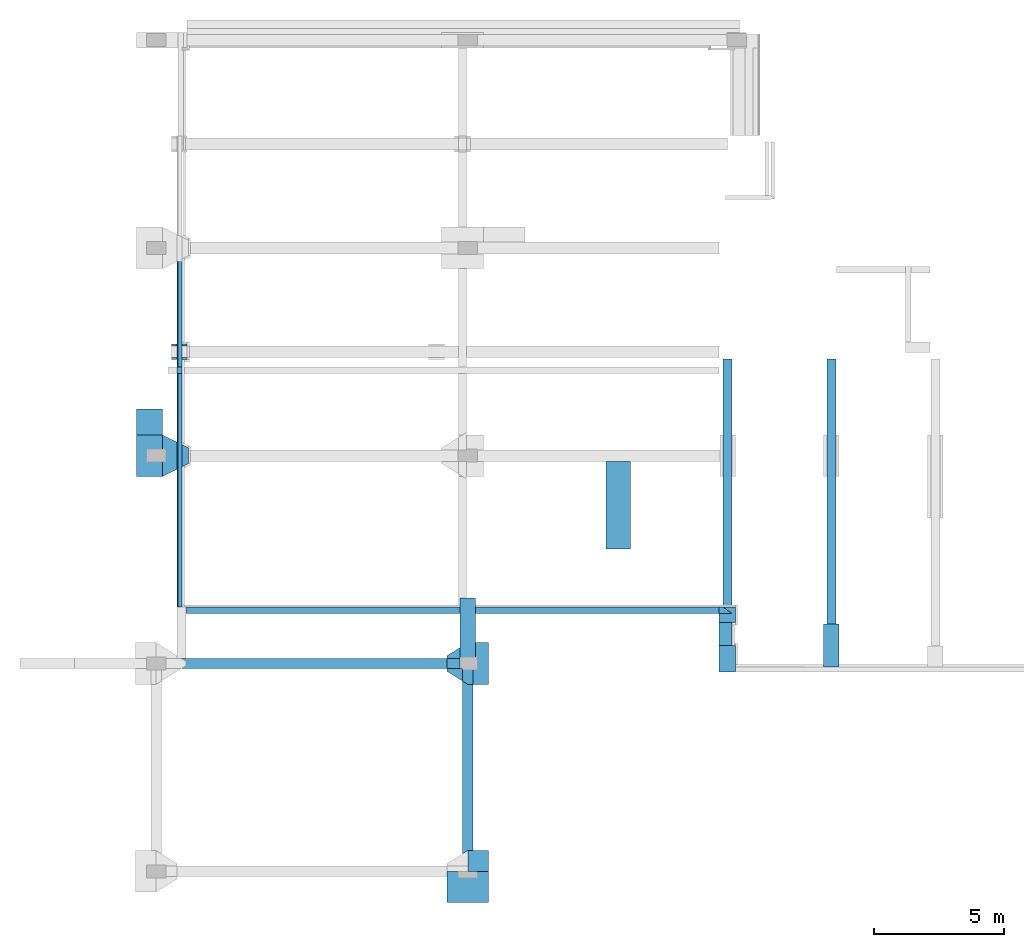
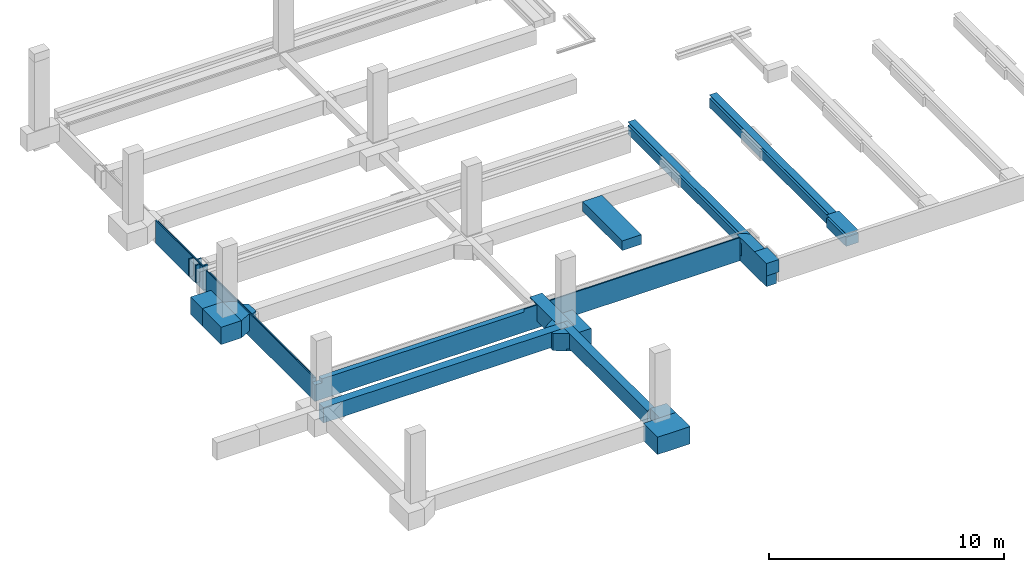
# One storey, part 2 of 17: 20 beams.
"""IFC2X3 building model written with IfcOpenShell, lengths in millimetres."""

from ifc_helpers import new_model, entity, si_unit, converted_unit, derived_unit, money_unit, direction, frame, origin_with_axes, place, context, subcontext, project, spatial, faceted_brep, material, type_object, element, save


model = new_model("IFC2X3")

# Units and contexts
model_context = context("Model", 3, precision=0.01, world=origin_with_axes(), true_north=direction((0.0, 1.0)))
body_context = subcontext(model_context, "Body", "Model", "MODEL_VIEW")
ifc_project = project(units=[si_unit("LENGTHUNIT", "METRE", prefix="MILLI"), si_unit("AREAUNIT", "SQUARE_METRE"), si_unit("VOLUMEUNIT", "CUBIC_METRE"), converted_unit("PLANEANGLEUNIT", "DEGREE", entity("IfcPlaneAngleMeasure", 0.0174532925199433), si_unit("PLANEANGLEUNIT", "RADIAN"), dimensions=[0, 0, 0, 0, 0, 0, 0]), money_unit("EUR"), converted_unit("TIMEUNIT", "Year", entity("IfcTimeMeasure", 31557600.0), si_unit("TIMEUNIT", "SECOND"), dimensions=[0, 0, 1, 0, 0, 0, 0]), si_unit("MASSUNIT", "GRAM", prefix="KILO"), si_unit("THERMODYNAMICTEMPERATUREUNIT", "DEGREE_CELSIUS"), si_unit("LUMINOUSINTENSITYUNIT", "LUMEN"), si_unit("ENERGYUNIT", "JOULE", prefix="MEGA"), derived_unit("THERMALCONDUCTANCEUNIT", [(si_unit("POWERUNIT", "WATT"), 1), (si_unit("LENGTHUNIT", "METRE"), -1), (si_unit("THERMODYNAMICTEMPERATUREUNIT", "KELVIN"), -1)]), derived_unit("SPECIFICHEATCAPACITYUNIT", [(si_unit("ENERGYUNIT", "JOULE"), 1), (si_unit("MASSUNIT", "GRAM", prefix="KILO"), -1), (si_unit("THERMODYNAMICTEMPERATUREUNIT", "KELVIN"), -1)]), derived_unit("MASSDENSITYUNIT", [(si_unit("MASSUNIT", "GRAM", prefix="KILO"), 1), (si_unit("VOLUMEUNIT", "CUBIC_METRE"), -1)])], contexts=[model_context])

# Site, building, storey
site_placement = place(None, origin_with_axes())
site = spatial("IfcSite", under=ifc_project, at=site_placement, Name="<site naam>", CompositionType="ELEMENT")
building_placement = place(site_placement, origin_with_axes())
building = spatial("IfcBuilding", under=site, at=building_placement, Name="<Naam gebouw>", CompositionType="ELEMENT")
storey_placement = place(building_placement, frame((0.0, 0.0, -1100.0), z_axis=(0.0, 0.0, 1.0), x_axis=(1.0, 0.0, 0.0)))
storey = spatial("IfcBuildingStorey", under=building, at=storey_placement, Name="-1 Fundering", CompositionType="ELEMENT", Elevation=-1100.0)

# Beams
ifc_material = material(Name="beton_gewapend C")
beam_type_1 = type_object("IfcBeamType", Name="beton_gewapend C 400 x 800", PredefinedType="BEAM")
beam_1_placement = place(storey_placement, frame((2000.000000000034, -7999.999999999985, 1100.0), z_axis=(0.0, 0.0, 1.0), x_axis=(1.0, 0.0, 0.0)))
element("IfcBeam", 1, at=beam_1_placement, inside=storey, type_object=beam_type_1, material=ifc_material, Name="28_Balk_beton_gewapend", ObjectType="BEAM", context=body_context, shape_type="Brep", body=[
    faceted_brep([(199.9999999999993, 8200.000000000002, 0.0), (199.9999999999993, 8200.000000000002, -799.9999999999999), (0.0, 8200.000000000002, -799.9999999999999), (0.0, 8200.000000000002, 0.0), (200.0000000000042, 800.0000000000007, -799.9999999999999), (200.0000000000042, 800.0000000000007, 0.0), (-199.999999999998, 675.0000000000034, -799.9999999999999), (-200.0000000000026, 7800.0, -799.9999999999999), (0.0, 7800.000000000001, -799.9999999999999), (0.0, 800.0000000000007, -799.9999999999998), (0.0, 7800.000000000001, 0.0), (-200.0000000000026, 7800.0, 0.0), (-199.999999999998, 675.0000000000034, 0.0), (0.0, 800.0000000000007, 0.0)], [[[0, 1, 2, 3]], [[4, 1, 0, 5]], [[6, 7, 8, 2, 1, 4, 9]], [[2, 8, 10, 3]], [[0, 3, 10, 11, 12, 13, 5]], [[5, 13, 9, 4]], [[6, 12, 11, 7]], [[8, 7, 11, 10]], [[13, 12, 6, 9]]]),
])
beam_2_placement = place(storey_placement, frame((-9999.999999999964, 0.0, 1100.0), z_axis=(0.0, 0.0, 1.0), x_axis=(0.0, -1.0, 0.0)))
element("IfcBeam", 2, at=beam_2_placement, inside=storey, type_object=beam_type_1, material=ifc_material, Name="28_Balk_beton_gewapend", ObjectType="BEAM", context=body_context, shape_type="Brep", body=[
    faceted_brep([(-199.9999999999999, 0.0, -799.9999999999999), (-200.0000000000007, 12000.0, -799.9999999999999), (199.9999999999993, 12000.0, -799.9999999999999), (200.0000000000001, 0.0, -799.9999999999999), (-200.0, 0.0, 0.0), (-200.0000000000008, 12000.0, 0.0), (199.9999999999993, 12000.0, 0.0), (200.0, 0.0, 0.0)], [[[0, 1, 2, 3]], [[4, 5, 1, 0]], [[2, 1, 5, 6]], [[3, 2, 6, 7]], [[4, 0, 3, 7]], [[7, 6, 5, 4]]]),
])
beam_type_2 = type_object("IfcBeamType", Name="beton_gewapend C 600 x 650", PredefinedType="BEAM")
beam_3_placement = place(storey_placement, frame((16000.00000000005, 1525.63801612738, 1070.0), z_axis=(0.0, 0.0, 1.0), x_axis=(-1.0, 0.0, 0.0)))
element("IfcBeam", 3, at=beam_3_placement, inside=storey, type_object=beam_type_2, material=ifc_material, Name="28_Balk_beton_gewapend", ObjectType="BEAM", context=body_context, shape_type="Brep", body=[
    faceted_brep([(300.0000000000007, 0.0, -650.0000000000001), (300.0000000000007, 0.0, -170.0), (-300.0000000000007, 0.0, -170.0), (-300.0000000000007, 0.0, -650.0000000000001), (300.0000000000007, 1650.638016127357, -650.0000000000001), (300.0000000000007, 1650.638016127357, -170.0), (-300.0000000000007, 1650.638016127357, -170.0), (-300.0000000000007, 1650.638016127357, -650.0000000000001)], [[[0, 1, 2, 3]], [[4, 5, 1, 0]], [[5, 6, 2, 1]], [[3, 2, 6, 7]], [[0, 3, 7, 4]], [[7, 6, 5, 4]]]),
    faceted_brep([(-300.0000000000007, 1650.638016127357, 0.0), (-300.0000000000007, 1650.638016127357, -20.00000000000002), (-300.0000000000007, 0.0, -20.00000000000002), (-300.0000000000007, 0.0, 0.0), (300.0000000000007, 1650.638016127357, 0.0), (300.0000000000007, 1650.638016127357, -20.00000000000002), (300.0000000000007, 0.0, -20.00000000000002), (300.0000000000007, 0.0, 0.0)], [[[0, 1, 2, 3]], [[4, 5, 1, 0]], [[5, 6, 2, 1]], [[3, 2, 6, 7]], [[3, 7, 4, 0]], [[7, 6, 5, 4]]]),
])
beam_type_3 = type_object("IfcBeamType", Name="beton_gewapend C 350 x 650", PredefinedType="BEAM")
beam_4_placement = place(storey_placement, frame((16000.00000000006, 11725.00000000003, 1070.0), z_axis=(0.0, 0.0, 1.0), x_axis=(-1.0, 0.0, 0.0)))
element("IfcBeam", 4, at=beam_4_placement, inside=storey, type_object=beam_type_3, material=ifc_material, Name="28_Balk_beton_gewapend", ObjectType="BEAM", context=body_context, shape_type="Brep", body=[
    faceted_brep([(175.0000000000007, 0.0, -650.0000000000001), (175.0000000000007, 0.0, -170.0), (-175.0000000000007, 0.0, -170.0), (-175.0000000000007, 0.0, -650.0000000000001), (175.0000000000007, 10199.36198387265, -650.0000000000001), (175.0000000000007, 10199.36198387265, -170.0), (-175.0000000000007, 10199.36198387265, -170.0), (-175.0000000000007, 10199.36198387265, -650.0000000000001)], [[[0, 1, 2, 3]], [[4, 5, 1, 0]], [[5, 6, 2, 1]], [[3, 2, 6, 7]], [[0, 3, 7, 4]], [[7, 6, 5, 4]]]),
    faceted_brep([(-175.0000000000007, 10199.36198387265, 0.0), (-175.0000000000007, 10199.36198387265, -20.00000000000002), (-175.0000000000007, 0.0, -20.00000000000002), (-175.0000000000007, 0.0, 0.0), (175.0000000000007, 10199.36198387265, 0.0), (175.0000000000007, 10199.36198387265, -20.00000000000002), (175.0000000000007, 0.0, -20.00000000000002), (175.0000000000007, 0.0, 0.0)], [[[0, 1, 2, 3]], [[4, 5, 1, 0]], [[5, 6, 2, 1]], [[3, 2, 6, 7]], [[3, 7, 4, 0]], [[7, 6, 5, 4]]]),
])
beam_5_placement = place(storey_placement, frame((12000.00000000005, 11725.00000000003, 1070.0), z_axis=(0.0, 0.0, 1.0), x_axis=(-1.0, 0.0, 0.0)))
element("IfcBeam", 5, at=beam_5_placement, inside=storey, type_object=beam_type_3, material=ifc_material, Name="28_Balk_beton_gewapend", ObjectType="BEAM", context=body_context, shape_type="Brep", body=[
    faceted_brep([(175.0000000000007, 0.0, -650.0000000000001), (175.0000000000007, 0.0, -170.0), (-175.0000000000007, 0.0, -170.0), (-175.0000000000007, 0.0, -650.0000000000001), (175.0000000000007, 9549.993437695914, -250.0000000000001), (175.0000000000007, 9549.993437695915, -170.0), (175.0000000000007, 9549.993437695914, -650.0000000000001), (-175.0000000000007, 9799.993437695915, -170.0), (-175.0000000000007, 9799.993437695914, -250.0000000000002), (-175.0000000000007, 9549.993437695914, -250.0000000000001), (-175.0000000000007, 9549.993437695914, -650.0000000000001)], [[[0, 1, 2, 3]], [[4, 5, 1, 0, 6]], [[5, 7, 2, 1]], [[3, 2, 7, 8, 9, 10]], [[0, 3, 10, 6]], [[8, 7, 5, 4]], [[4, 6, 10, 9]], [[8, 4, 9]]]),
    faceted_brep([(-175.0000000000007, 9799.993437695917, 0.0), (-175.0000000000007, 9799.993437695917, -20.00000000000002), (-175.0000000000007, 0.0, -20.00000000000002), (-175.0000000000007, 0.0, 0.0), (174.9999999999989, 9549.993437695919, 0.0), (174.9999999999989, 9549.993437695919, -20.00000000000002), (175.0000000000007, 0.0, -20.00000000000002), (175.0000000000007, 0.0, 0.0)], [[[0, 1, 2, 3]], [[4, 5, 1, 0]], [[5, 6, 2, 1]], [[3, 2, 6, 7]], [[0, 3, 7, 4]], [[7, 6, 5, 4]]]),
])
beam_type_4 = type_object("IfcBeamType", Name="beton_gewapend C 200 x 1200", PredefinedType="BEAM")
beam_6_placement = place(storey_placement, frame((-9199.999999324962, 16000.00000000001, 1050.0), z_axis=(0.0, 0.0, 1.0), x_axis=(-1.0, 0.0, 0.0)))
element("IfcBeam", 6, at=beam_6_placement, inside=storey, type_object=beam_type_4, material=ifc_material, Name="28_Balk_beton_gewapend", ObjectType="BEAM", context=body_context, shape_type="Brep", body=[
    faceted_brep([(0.0, 4827.478106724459, 0.0), (-44.99999932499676, 4827.478106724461, 0.0), (-44.99999932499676, 4827.478106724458, -150.0), (-199.9999999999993, 4827.478106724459, -150.0), (-199.9999999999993, 4827.478106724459, -1180.0), (0.0, 4827.478106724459, -1180.0), (0.0, 13825.0, 0.0), (-44.99999932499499, 13825.0, 0.0), (-44.99999932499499, 13825.0, -150.0), (-199.9999999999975, 13825.0, -150.0), (-200.0000000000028, 420.4587537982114, -900.0), (-200.0000000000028, 420.4587537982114, -150.0), (-199.9999999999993, 4577.478106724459, -150.0), (-199.9999999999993, 4577.478106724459, -1180.0), (-199.9999999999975, 13825.0, -1200.0), (-200.0000000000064, 520.4587537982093, -1200.0), (-200.0000000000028, 520.4587537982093, -900.0), (0.0, 4577.478106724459, -1180.0), (0.0, 4577.478106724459, 0.0), (0.0, 520.4587537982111, 0.0), (0.0, 520.4587537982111, -900.0), (0.0, 520.4587537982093, -1200.0), (0.0, 13825.0, -1200.0), (-44.99999932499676, 497.9587541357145, 0.0), (-44.99999932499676, 497.9587541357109, -150.0), (-44.99999932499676, 4577.478106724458, -150.0), (-44.99999932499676, 4577.478106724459, 0.0)], [[[0, 1, 2, 3, 4, 5]], [[6, 7, 1, 0]], [[8, 2, 1, 7]], [[8, 9, 3, 2]], [[10, 11, 12, 13, 4, 3, 9, 14, 15, 16]], [[5, 4, 13, 17]], [[5, 17, 18, 19, 20, 21, 22, 6, 0]], [[9, 8, 7, 6, 22, 14]], [[19, 23, 24, 11, 10, 20]], [[25, 12, 11, 24]], [[12, 25, 26, 18, 17, 13]], [[21, 15, 14, 22]], [[16, 15, 21, 20]], [[20, 10, 16]], [[18, 26, 23, 19]], [[25, 24, 23, 26]]]),
])
beam_type_5 = type_object("IfcBeamType", Name="beton_gewapend C 510 x 1200", PredefinedType="BEAM")
beam_7_placement = place(storey_placement, frame((11665.44613421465, 2175.000000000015, 1070.0), z_axis=(0.0, 0.0, 1.0), x_axis=(-0.9999999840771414, 0.0001784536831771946, 0.0)))
element("IfcBeam", 7, at=beam_7_placement, inside=storey, type_object=beam_type_5, material=ifc_material, Name="28_Balk_beton_gewapend", ObjectType="BEAM", context=body_context, shape_type="Brep", body=[
    faceted_brep([(-510.0000000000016, 1482.685538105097, 0.0), (-510.0000000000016, 1482.685538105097, -20.00000000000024), (-509.999999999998, -0.09757368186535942, -20.00000000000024), (-510.0000000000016, -0.09757368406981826, 0.0), (-219.8184682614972, 1482.737322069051, -170.0000000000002), (-219.8184682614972, 1482.737322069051, -20.00000000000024), (-0.2694650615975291, 1482.776501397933, 0.0), (-0.2694650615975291, 1482.776501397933, -650.0000000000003), (-510.0000000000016, 1482.685538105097, -650.0000000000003), (-510.0000000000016, 1482.685538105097, -170.0000000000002), (-159.5538620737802, -0.03503527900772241, -20.00000000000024), (-509.5984699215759, 249.9025019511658, -20.00000000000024), (-509.5538565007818, -0.0974940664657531, -20.00000000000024), (-219.5984735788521, 249.9542535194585, -20.00000000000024), (0.0, 249.9934416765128, -20.00000000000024), (0.0, -0.006562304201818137, -20.00000000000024), (-509.5538564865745, -0.0975736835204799, 0.0), (-159.5538509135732, -0.09757368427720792, 0.0), (0.0, -0.09757368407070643, 0.0), (0.0, 2500.000037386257, 0.0), (-0.4509923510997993, 2500.000037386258, 0.0), (-509.5984699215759, 249.9025019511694, 0.0), (-159.553862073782, -0.03503527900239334, 0.0), (-219.5984735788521, 249.9542535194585, -170.0000000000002), (-0.4509923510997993, 2500.000037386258, -650.0000000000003), (-509.9999999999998, 2499.968808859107, -650.0000000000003), (-335.0048634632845, 2500.000037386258, -650.0000000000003), (-509.999999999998, -0.09757368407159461, -250.0000000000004), (-509.999999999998, -0.09757368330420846, -170.0000000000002), (-509.9999999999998, 2499.968808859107, 0.0), (-509.9999999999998, 2500.000037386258, 0.0), (-509.9999999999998, 2500.000037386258, -1200.0), (-509.999999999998, -0.09757368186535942, -1200.0), (-509.999999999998, -0.09757368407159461, -900.0000000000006), (-509.9999999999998, 599.9089981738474, -900.0000000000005), (-509.9999999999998, 599.9089981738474, -250.0000000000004), (-509.5538565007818, -0.0974940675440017, -170.0000000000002), (-509.5984699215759, 249.9025019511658, -170.0000000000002), (-509.5984699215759, 249.9025019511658, -250.0000000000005), (-0.04461224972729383, 249.9934337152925, -250.0000000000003), (-0.04461224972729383, 249.9934337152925, -900.0000000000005), (-509.5984699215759, 249.9025019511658, -900.0000000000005), (-509.5984699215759, 249.9025019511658, -1200.0), (0.0, 249.9934416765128, -1200.0), (0.0, 2500.000037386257, -1200.0), (0.0, -0.09757368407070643, -20.00000000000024), (-159.5538509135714, -0.09757368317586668, -20.00000000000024), (-335.0048620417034, 2500.000037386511, 0.0), (-509.5538565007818, -0.09749406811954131, -250.0000000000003), (-159.5538620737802, -0.03503527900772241, -1200.0), (-159.5538620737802, -0.03503527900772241, -900.0000000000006), (-0.1070722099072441, 599.9999904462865, -900.0000000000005), (-0.1070722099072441, 599.9999904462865, -250.0000000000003)], [[[0, 1, 2, 3]], [[4, 5, 1, 0, 6, 7, 8, 9]], [[10, 11, 12, 2, 1, 5, 13, 14, 15]], [[3, 2, 12, 16]], [[17, 18, 19, 20, 6, 0, 3, 16, 21, 22]], [[4, 23, 13, 5]], [[7, 6, 20, 24]], [[25, 8, 7, 24, 26]], [[27, 28, 9, 8, 25, 29, 30, 31, 32, 33, 34, 35]], [[4, 9, 28, 36, 37, 23]], [[21, 11, 10, 22]], [[16, 12, 11, 21]], [[13, 23, 37, 38, 39, 40, 41, 42, 43, 14]], [[14, 43, 44, 19, 18, 45, 15]], [[46, 10, 15, 45]], [[17, 46, 45, 18]], [[24, 20, 19, 44, 31, 30, 47, 26]], [[46, 17, 22, 10]], [[29, 25, 26, 47]], [[48, 36, 28, 27]], [[29, 47, 30]], [[32, 31, 44, 43, 42, 49]], [[33, 32, 49, 50]], [[50, 41, 40, 51, 34, 33]], [[35, 34, 51, 52]], [[27, 35, 52, 39, 38, 48]], [[38, 37, 36, 48]], [[39, 52, 51, 40]], [[42, 41, 50, 49]]]),
])
beam_type_6 = type_object("IfcBeamType", Name="beton_gewapend C 635 x 650", PredefinedType="BEAM")
beam_8_placement = place(storey_placement, frame((11665.45099234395, 692.2234741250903, 1070.0), z_axis=(0.0, 0.0, 1.0), x_axis=(-1.0, 0.0, 0.0)))
element("IfcBeam", 8, at=beam_8_placement, inside=storey, type_object=beam_type_6, material=ifc_material, Name="28_Balk_beton_gewapend", ObjectType="BEAM", context=body_context, shape_type="Brep", body=[
    faceted_brep([(-634.9999999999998, 0.0, -170.0), (-634.9999999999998, 917.2169118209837, -170.0), (-634.9999999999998, 917.2169118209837, -20.00000000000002), (-634.9999999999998, 0.0, -20.00000000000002), (-634.9999999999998, 0.0, 0.0), (-634.9999999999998, 1017.283254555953, 0.0), (-634.9999999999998, 1017.283254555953, -650.0000000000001), (-634.9999999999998, 0.0, -650.0000000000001), (-219.5490066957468, 917.2169118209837, -170.0), (-219.5490066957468, 0.0, -170.0), (-219.5490066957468, 917.2169118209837, -20.00000000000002), (-219.5490066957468, 0.0, -20.00000000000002), (0.0, 0.0, -650.0000000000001), (0.0, 0.0, 0.0), (0.0, 1017.283254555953, 0.0), (0.0, 1017.283254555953, -650.0000000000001)], [[[0, 1, 2, 3, 4, 5, 6, 7]], [[8, 1, 0, 9]], [[10, 2, 1, 8]], [[10, 11, 3, 2]], [[11, 9, 0, 7, 12, 13, 4, 3]], [[4, 13, 14, 5]], [[14, 15, 6, 5]], [[12, 7, 6, 15]], [[8, 9, 11, 10]], [[13, 12, 15, 14]]]),
])
beam_9_placement = place(storey_placement, frame((11665.44613421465, 2175.000000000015, 820.0), z_axis=(0.0, 0.0, 1.0), x_axis=(-1.0, 0.0, 0.0)))
element("IfcBeam", 9, at=beam_9_placement, inside=storey, type_object=beam_type_6, material=ifc_material, Name="28_Balk_beton_gewapend", ObjectType="BEAM", context=body_context, shape_type="Brep", body=[
    faceted_brep([(-159.5538657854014, -0.006562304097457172, 0.0), (-509.5538657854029, 249.9934376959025, 0.0), (0.0, 249.9934376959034, 0.0), (0.0, 600.0000000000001, 0.0), (-634.9999999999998, 600.0000000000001, 0.0), (-634.9999999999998, -0.006562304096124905, 0.0), (-509.5538657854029, 249.9934376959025, -650.0000000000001), (-159.5538657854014, -0.006562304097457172, -650.0000000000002), (0.0, 249.9934376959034, -650.0000000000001), (0.0, 600.0000000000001, -650.0000000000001), (-634.9999999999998, 600.0000000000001, -650.0000000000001), (-634.9999999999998, -0.006562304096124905, -650.0000000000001)], [[[0, 1, 2, 3, 4, 5]], [[6, 1, 0, 7]], [[8, 2, 1, 6]], [[3, 2, 8, 9]], [[4, 3, 9, 10]], [[10, 11, 5, 4]], [[11, 7, 0, 5]], [[8, 6, 7, 11, 10, 9]]]),
])
beam_type_7 = type_object("IfcBeamType", Name="beton_gewapend C 950 x 650", PredefinedType="BEAM")
beam_10_placement = place(storey_placement, frame((7795.917508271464, 8000.000000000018, 1050.0), z_axis=(0.0, 0.0, 1.0), x_axis=(-1.0, 0.0, 0.0)))
element("IfcBeam", 10, at=beam_10_placement, inside=storey, type_object=beam_type_7, material=ifc_material, Name="28_Balk_beton_gewapend", ObjectType="BEAM", context=body_context, shape_type="Brep", body=[
    faceted_brep([(474.9999999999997, 224.9999999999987, -650.0000000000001), (474.9999999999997, 224.9999999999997, -150.0), (-474.9999999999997, 224.9999999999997, -149.9999999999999), (-474.9999999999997, 224.9999999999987, -650.0000000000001), (474.9999999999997, 3600.000000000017, -650.0000000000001), (474.9999999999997, 3600.000000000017, -149.9999999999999), (-474.9999999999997, 3600.000000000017, -150.0), (-474.9999999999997, 3600.000000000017, -650.0000000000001)], [[[0, 1, 2, 3]], [[4, 5, 1, 0]], [[5, 6, 2, 1]], [[3, 2, 6, 7]], [[7, 4, 0, 3]], [[7, 6, 5, 4]]]),
])
beam_type_8 = type_object("IfcBeamType", Name="beton_gewapend C 250 x 1200", PredefinedType="BEAM")
beam_11_placement = place(storey_placement, frame((-9199.999999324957, 2175.00656230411, 1050.0), z_axis=(0.0, 0.0, 1.0), x_axis=(0.0, -1.0, 0.0)))
element("IfcBeam", 11, at=beam_11_placement, inside=storey, type_object=beam_type_8, material=ifc_material, Name="28_Balk_beton_gewapend", ObjectType="BEAM", context=body_context, shape_type="Brep", body=[
    faceted_brep([(0.0, 11499.99999882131, -850.0), (0.0, 11499.99999885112, -150.0), (0.0, 21024.99999932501, -150.0), (0.0, 21024.99999932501, -1200.0), (0.0, -8.050271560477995e-08, -1200.0), (0.00656230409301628, 0.0, -350.0000000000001), (0.0, 349.9999999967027, -350.0), (0.0, 349.9999999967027, -150.0), (0.0, 11145.91750705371, -150.0), (0.0, 11145.91750705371, -500.0000000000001), (0.0, 10899.99999880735, -500.0000000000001), (0.0, 10899.99999882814, -850.0), (244.9999999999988, 11499.99999891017, 0.0), (244.9999999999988, 11499.99999884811, -150.0), (249.9999999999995, 11499.99999884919, -850.0000000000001), (249.9999999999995, 11499.99999891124, 0.0), (244.9999999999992, 21084.99999836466, -150.0), (250.0, 21084.99999836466, -150.0), (249.9999999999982, 21374.99999932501, -149.9999999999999), (249.9999999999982, 21374.99999932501, -1200.0), (250.0000000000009, -8.050271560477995e-08, -1200.0), (250.0000000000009, -7.755751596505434e-08, -350.0000000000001), (250.0000000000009, 349.9999999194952, -350.0), (250.0001585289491, 349.9999999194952, -150.0), (244.9999999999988, 10275.04446651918, -150.0), (244.9999999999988, 11145.91750705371, -150.0), (250.0001585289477, 10275.04446651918, -150.0), (244.9999999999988, 11145.91750705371, 0.0), (249.9999999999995, 11145.91750705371, 0.0), (249.9999999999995, 11145.91750705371, -500.0000000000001), (249.9999999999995, 10899.99999882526, -500.0000000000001), (249.9999999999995, 10899.99999886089, -850.0000000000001), (244.9999999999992, 21084.99999836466, 0.0), (249.9999999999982, 21084.99999836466, 0.0), (250.0001585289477, 10275.04446651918, 0.0), (244.9999999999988, 10275.04446651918, 0.0)], [[[0, 1, 2, 3, 4, 5, 6, 7, 8, 9, 10, 11]], [[12, 13, 1, 0, 14, 15]], [[16, 17, 18, 2, 1, 13]], [[3, 2, 18, 19]], [[20, 4, 3, 19]], [[4, 20, 21, 5]], [[21, 22, 6, 5]], [[22, 23, 7, 6]], [[24, 25, 8, 7, 23, 26]], [[8, 25, 27, 28, 29, 9]], [[9, 29, 30, 10]], [[10, 30, 31, 11]], [[11, 31, 14, 0]], [[13, 12, 32, 16]], [[18, 17, 33, 15, 14, 31, 30, 29, 28, 34, 26, 23, 22, 21, 20, 19]], [[33, 32, 12, 15]], [[16, 32, 33, 17]], [[24, 35, 27, 25]], [[26, 34, 35, 24]], [[27, 35, 34, 28]]]),
])
beam_type_9 = type_object("IfcBeamType", Name="beton_gewapend C 1600 x 900", PredefinedType="BEAM")
beam_12_placement = place(storey_placement, frame((2000.000000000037, 0.0, 1100.0), z_axis=(0.0, 0.0, 1.0), x_axis=(0.0, -1.0, 0.0)))
element("IfcBeam", 12, at=beam_12_placement, inside=storey, type_object=beam_type_9, material=ifc_material, Name="28_Balk_beton_gewapend", ObjectType="BEAM", context=body_context, shape_type="Brep", body=[
    faceted_brep([(-800.0000000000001, 800.0000000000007, -899.9999999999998), (-800.0000000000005, 299.9999996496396, -900.0000000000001), (-800.0000000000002, 299.9999998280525, 0.0), (-800.0000000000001, 800.0000000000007, 0.0), (799.9999999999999, 800.0000000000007, -900.0000000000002), (799.9999910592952, 299.9999998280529, -900.0000000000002), (199.9999999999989, 300.0000000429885, -799.9999999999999), (199.9999999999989, 300.0000000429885, 0.0), (799.9999910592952, 300.0000001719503, -799.9999999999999), (199.9999999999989, 200.0000000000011, 0.0), (800.000000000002, 200.0000000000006, 0.0), (799.9999999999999, 800.0000000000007, 0.0), (799.9999910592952, 200.0000000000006, -799.9999999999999), (199.9999999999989, 200.0000000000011, -799.9999999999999)], [[[0, 1, 2, 3]], [[4, 5, 1, 0]], [[6, 7, 2, 1, 5, 8]], [[2, 7, 9, 10, 11, 3]], [[11, 4, 0, 3]], [[12, 8, 5, 4, 11, 10]], [[13, 9, 7, 6]], [[6, 8, 12, 13]], [[9, 13, 12, 10]]]),
])
beam_13_placement = place(storey_placement, frame((1200.000000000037, 0.0, 1100.0), z_axis=(0.0, 0.0, 1.0), x_axis=(0.0, -1.0, 0.0)))
element("IfcBeam", 13, at=beam_13_placement, inside=storey, type_object=beam_type_9, material=ifc_material, Name="28_Balk_beton_gewapend", ObjectType="BEAM", context=body_context, shape_type="Brep", body=[
    faceted_brep([(675.0000000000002, 599.9999999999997, 0.0), (674.9999999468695, 600.0000000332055, -799.9999999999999), (199.9999999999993, 599.9999999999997, -799.9999999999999), (199.9999999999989, 599.9999999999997, 0.0), (612.4999999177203, 499.9999998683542, -900.0000000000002), (612.4999999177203, 500.0000000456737, -799.9999999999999), (300.0000000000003, 0.0, 0.0), (299.9999999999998, 0.0, -900.0000000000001), (199.9999999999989, 499.9999999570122, -799.9999999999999), (199.9999999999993, 0.0, -799.9999999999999), (199.9999999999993, 0.0, 0.0), (-612.4999998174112, 499.9999997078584, -900.0000000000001), (-612.4999998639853, 499.999999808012, 0.0), (-200.0000000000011, 499.9999998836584, 0.0), (-200.0000000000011, 499.9999998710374, -799.9999999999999), (-200.0000000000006, 0.0, -799.9999999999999), (-200.0000000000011, 0.0, 0.0), (-300.0000000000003, 0.0, 0.0), (-300.0000000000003, 0.0, -899.9999999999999)], [[[0, 1, 2, 3]], [[4, 5, 1, 0, 6, 7]], [[5, 8, 2, 1]], [[3, 2, 8, 9, 10]], [[10, 6, 0, 3]], [[4, 11, 12, 13, 14, 8, 5]], [[7, 6, 10, 9, 15, 16, 17, 18]], [[18, 11, 4, 7]], [[9, 8, 14, 15]], [[17, 12, 11, 18]], [[16, 13, 12, 17]], [[15, 14, 13, 16]]]),
])
beam_14_placement = place(storey_placement, frame((-9759.082491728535, 8000.000000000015, 1050.0), z_axis=(0.0, 0.0, 1.0), x_axis=(0.0, 1.0, 0.0)))
element("IfcBeam", 14, at=beam_14_placement, inside=storey, type_object=beam_type_9, material=ifc_material, Name="28_Balk_beton_gewapend", ObjectType="BEAM", context=body_context, shape_type="Brep", body=[
    faceted_brep([(-799.9999999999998, 0.0, -900.0), (-799.9999999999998, 1000.0, -900.0), (800.0000000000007, 1000.0, -900.0), (800.0000000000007, 0.0, -900.0), (-799.9999999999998, 0.0, 0.0), (-799.9999999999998, 1000.0, 0.0), (800.0000000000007, 1000.0, 0.0), (800.0000000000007, 0.0, 0.0)], [[[0, 1, 2, 3]], [[4, 5, 1, 0]], [[2, 1, 5, 6]], [[3, 2, 6, 7]], [[4, 0, 3, 7]], [[7, 6, 5, 4]]]),
])
beam_15_placement = place(storey_placement, frame((-8759.082491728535, 8000.000000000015, 1050.0), z_axis=(0.0, 0.0, 1.0), x_axis=(0.0, 1.0, 0.0)))
element("IfcBeam", 15, at=beam_15_placement, inside=storey, type_object=beam_type_9, material=ifc_material, Name="28_Balk_beton_gewapend", ObjectType="BEAM", context=body_context, shape_type="Brep", body=[
    faceted_brep([(420.4587537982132, 240.9175075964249, -900.0), (420.4587537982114, 240.9175075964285, -150.0), (300.0000000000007, 0.0, -150.0), (300.0000000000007, 0.0, -900.0), (-420.4587537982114, 240.9175075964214, -900.0), (-420.4587537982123, 240.9175075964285, -150.0), (-299.9999999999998, 0.0, -150.0), (-299.9999999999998, 0.0, -900.0)], [[[0, 1, 2, 3]], [[4, 5, 1, 0]], [[5, 6, 2, 1]], [[3, 2, 6, 7]], [[0, 3, 7, 4]], [[7, 6, 5, 4]]]),
    faceted_brep([(-799.9999999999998, 1000.0, 0.0), (-520.4587537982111, 440.9175075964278, 0.0), (520.4587537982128, 440.9175075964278, 0.0), (800.0000000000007, 1000.0, 0.0), (-799.9999999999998, 1000.0, -900.0), (-520.4587537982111, 440.9175075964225, -900.0), (520.4587537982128, 440.9175075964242, -900.0), (800.0000000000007, 1000.0, -900.0)], [[[0, 1, 2, 3]], [[4, 5, 1, 0]], [[5, 6, 2, 1]], [[3, 2, 6, 7]], [[0, 3, 7, 4]], [[7, 6, 5, 4]]]),
])
beam_16_placement = place(storey_placement, frame((2000.000000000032, -7999.999999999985, 1100.0), z_axis=(0.0, 0.0, 1.0), x_axis=(0.0, -1.0, 0.0)))
element("IfcBeam", 16, at=beam_16_placement, inside=storey, type_object=beam_type_9, material=ifc_material, Name="28_Balk_beton_gewapend", ObjectType="BEAM", context=body_context, shape_type="Brep", body=[
    faceted_brep([(0.0, 800.0000000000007, 0.0), (-799.9999999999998, 800.0000000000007, 0.0), (-799.9999999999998, 0.0, 0.0), (0.0, 0.0, 0.0), (0.0, 800.0000000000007, -900.0), (-799.9999999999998, 800.0000000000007, -899.9999999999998), (-800.0000000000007, 0.0, -899.9999999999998), (0.0, 0.0, -900.0)], [[[0, 1, 2, 3]], [[4, 5, 1, 0]], [[1, 5, 6, 2]], [[3, 2, 6, 7]], [[0, 3, 7, 4]], [[7, 6, 5, 4]]]),
])
beam_type_10 = type_object("IfcBeamType", Name="beton_gewapend C 600 x 900", PredefinedType="BEAM")
beam_17_placement = place(storey_placement, frame((2000.000000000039, 0.0, 1100.0), z_axis=(0.0, 0.0, 1.0), x_axis=(1.0, 2.149362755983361e-10, 0.0)))
element("IfcBeam", 17, at=beam_17_placement, inside=storey, type_object=beam_type_10, material=ifc_material, Name="28_Balk_beton_gewapend", ObjectType="BEAM", context=body_context, shape_type="Brep", body=[
    faceted_brep([(300.0000000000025, 2525.000000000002, -199.9999999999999), (300.0000000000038, 1930.006562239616, -200.0), (300.0000000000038, 1930.006562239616, -50.00000000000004), (300.0000000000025, 2525.000000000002, -50.00000000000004), (300.0000000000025, 2525.000000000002, 0.0), (300.0000000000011, -200.0000000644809, 0.0), (300.0000000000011, -200.0000000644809, -799.9999999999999), (299.9999999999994, -799.9999911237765, -799.9999999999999), (299.9999996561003, -799.9999911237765, -900.0000000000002), (300.0000000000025, 2525.000000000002, -900.0), (-54.08249185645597, 1930.006562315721, -200.0), (-54.08249172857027, 2525.000000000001, -200.0), (-54.08249185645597, 1930.006562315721, -50.00000000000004), (-299.9999999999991, 2525.0, -50.00000000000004), (-54.08249185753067, 1925.00656231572, -50.00000000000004), (-300.0000000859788, 1925.006562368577, -50.00000000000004), (-299.9999999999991, 2525.0, 0.0), (-300.0000000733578, 200.0000000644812, 0.0), (4.298739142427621e-08, 200.0000000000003, 0.0), (200.0000000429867, 199.9999999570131, 0.0), (199.9999999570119, -200.0000000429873, 0.0), (199.9999999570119, -200.0000000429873, -799.9999999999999), (-4.298716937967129e-08, -200.0, -799.9999999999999), (-300.0000000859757, -199.9999999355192, -799.9999999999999), (-300.0000000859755, -612.4999998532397, -799.9999999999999), (-1.447707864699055e-05, -799.9999910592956, -799.9999999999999), (-1.447707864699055e-05, -799.9999910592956, -900.0000000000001), (-300.0000002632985, -612.4999998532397, -900.0000000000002), (-299.9999999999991, 2525.0, -900.0), (-54.08249172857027, 2525.000000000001, -550.0000000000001), (-299.9999999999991, 2525.0, -550.0000000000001), (-54.08249185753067, 1925.00656231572, -550.0000000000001), (-300.0000000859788, 1925.006562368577, -550.0000000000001), (-300.000000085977, 200.0000000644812, -799.9999999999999), (4.298739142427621e-08, 200.0000000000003, -799.9999999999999), (200.0000000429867, 199.9999999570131, -799.9999999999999)], [[[0, 1, 2, 3, 4, 5, 6, 7, 8, 9]], [[10, 1, 0, 11]], [[12, 2, 1, 10]], [[13, 3, 2, 12, 14, 15]], [[4, 3, 13, 16]], [[17, 18, 19, 20, 5, 4, 16]], [[6, 5, 20, 21]], [[7, 6, 21, 22, 23, 24, 25]], [[8, 7, 25, 26]], [[26, 27, 28, 9, 8]], [[29, 11, 0, 9, 28, 30]], [[12, 10, 11, 29, 31, 14]], [[32, 15, 14, 31]], [[27, 24, 23, 33, 17, 16, 13, 15, 32, 30, 28]], [[17, 33, 34, 35, 19, 18]], [[35, 21, 20, 19]], [[33, 23, 22, 21, 35, 34]], [[26, 25, 24, 27]], [[29, 30, 32, 31]]]),
])
beam_18_placement = place(storey_placement, frame((-8804.082491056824, 12000.00000000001, 1050.0), z_axis=(0.0, 0.0, 1.0), x_axis=(0.0, 1.0, 0.0)))
element("IfcBeam", 18, at=beam_18_placement, inside=storey, type_object=beam_type_10, material=ifc_material, Name="28_Balk_beton_gewapend", ObjectType="BEAM", context=body_context, shape_type="Brep", body=[
    faceted_brep([(-224.9999999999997, 195.9175082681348, -900.0), (-224.9999999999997, 195.9175082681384, -150.0), (-224.9999999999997, 0.0, -150.0), (-224.9999999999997, 0.0, -900.0), (-300.0000000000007, 195.9175082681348, -900.0), (-300.0000000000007, 195.9175082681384, -150.0), (-300.0000000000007, 0.0, -150.0), (-300.0000000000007, 0.0, -900.0)], [[[0, 1, 2, 3]], [[4, 5, 1, 0]], [[5, 6, 2, 1]], [[3, 2, 6, 7]], [[7, 4, 0, 3]], [[7, 6, 5, 4]]]),
    faceted_brep([(300.0000000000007, 195.9175082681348, -900.0), (300.0000000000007, 195.9175082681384, -150.0), (300.0000000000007, 0.0, -150.0), (300.0000000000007, 0.0, -900.0), (224.9999999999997, 195.9175082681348, -900.0), (224.9999999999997, 195.9175082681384, -150.0), (224.9999999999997, 0.0, -150.0), (224.9999999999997, 0.0, -900.0)], [[[0, 1, 2, 3]], [[4, 5, 1, 0]], [[5, 6, 2, 1]], [[3, 2, 6, 7]], [[0, 3, 7, 4]], [[7, 6, 5, 4]]]),
    faceted_brep([(-300.0000000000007, 395.9175082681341, -900.0), (-224.9999999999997, 395.9175082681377, -900.0), (-224.9999999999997, 395.9175082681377, 0.0), (-300.0000000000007, 395.9175082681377, 0.0), (-300.0000000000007, 600.0000000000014, -900.0), (-224.9999999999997, 600.0000000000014, -900.0), (-224.9999999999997, 600.0000000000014, 0.0), (-300.0000000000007, 600.0000000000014, 0.0)], [[[0, 1, 2, 3]], [[4, 5, 1, 0]], [[5, 6, 2, 1]], [[3, 2, 6, 7]], [[7, 4, 0, 3]], [[7, 6, 5, 4]]]),
    faceted_brep([(300.0000000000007, 600.0000000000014, 0.0), (224.9999999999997, 600.0000000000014, 0.0), (225.0000000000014, 395.9175082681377, 0.0), (300.0000000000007, 395.9175082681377, 0.0), (300.0000000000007, 600.0000000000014, -900.0), (224.9999999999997, 600.0000000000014, -900.0), (224.9999999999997, 395.9175082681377, -900.0), (300.0000000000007, 395.9175082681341, -900.0)], [[[0, 1, 2, 3]], [[4, 5, 1, 0]], [[5, 6, 2, 1]], [[3, 2, 6, 7]], [[4, 0, 3, 7]], [[7, 6, 5, 4]]]),
])
beam_type_11 = type_object("IfcBeamType", Name="beton_gewapend C 1200 x 900", PredefinedType="BEAM")
beam_19_placement = place(storey_placement, frame((1200.000000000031, -7999.999999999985, 1100.0), z_axis=(0.0, 0.0, 1.0), x_axis=(0.0, -1.0, 0.0)))
element("IfcBeam", 19, at=beam_19_placement, inside=storey, type_object=beam_type_11, material=ifc_material, Name="28_Balk_beton_gewapend", ObjectType="BEAM", context=body_context, shape_type="Brep", body=[
    faceted_brep([(0.0, 0.0, 0.0), (1199.999999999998, 0.0, 0.0), (1200.0, 1600.000000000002, 0.0), (0.0, 1600.000000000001, 0.0), (0.0, 0.0, -900.0), (1199.999999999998, 0.0, -900.0000000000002), (1200.0, 1600.000000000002, -900.0000000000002), (0.0, 1600.000000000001, -900.0)], [[[0, 1, 2, 3]], [[4, 5, 1, 0]], [[1, 5, 6, 2]], [[7, 3, 2, 6]], [[4, 0, 3, 7]], [[5, 4, 7, 6]]]),
])
beam_type_12 = type_object("IfcBeamType", Name="beton_gewapend C 1000 x 900", PredefinedType="BEAM")
beam_20_placement = place(storey_placement, frame((-9759.082491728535, 8800.000000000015, 1050.0), z_axis=(0.0, 0.0, 1.0), x_axis=(0.0, 1.0, 0.0)))
element("IfcBeam", 20, at=beam_20_placement, inside=storey, type_object=beam_type_12, material=ifc_material, Name="28_Balk_beton_gewapend", ObjectType="BEAM", context=body_context, shape_type="Brep", body=[
    faceted_brep([(0.0, 0.0, -900.0), (0.0, 1000.0, -900.0), (1000.0, 1000.0, -899.9999999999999), (1000.0, 0.0, -899.9999999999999), (0.0, 0.0, 0.0), (0.0, 1000.0, 0.0), (1000.0, 1000.0, 0.0), (1000.0, 0.0, 0.0)], [[[0, 1, 2, 3]], [[4, 5, 1, 0]], [[2, 1, 5, 6]], [[3, 2, 6, 7]], [[4, 0, 3, 7]], [[7, 6, 5, 4]]]),
])

save(model, "model.ifc")
